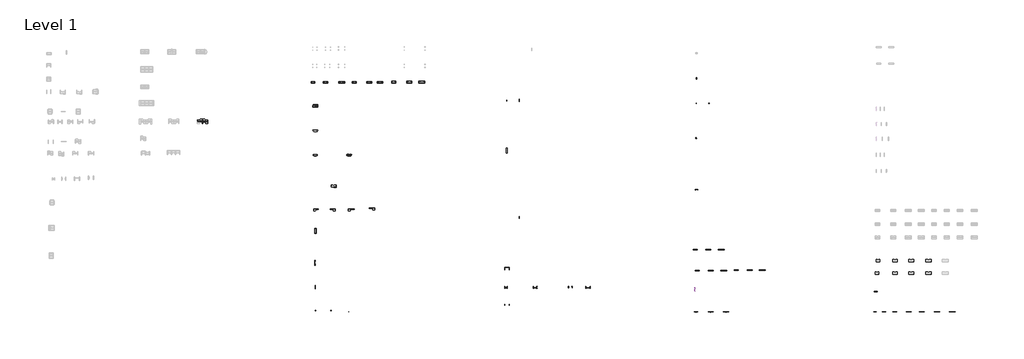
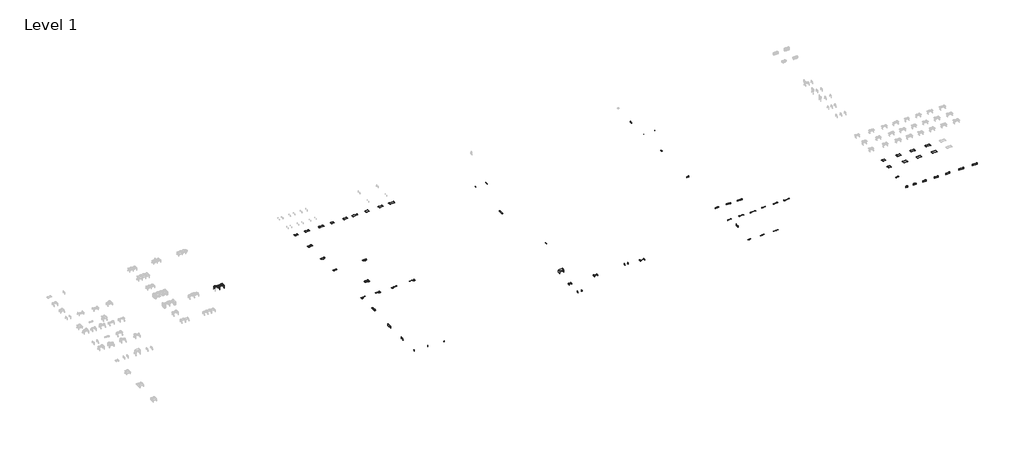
# One storey, part 4 of 6: 89 furniture elements.
"""IFC4 building model written with IfcOpenShell, lengths in millimetres."""

from ifc_helpers import new_model, si_unit, origin, place, context, project, spatial, transform, mapped, element, save
from components import furniture_8d4970fa, furniture_6679164a, furniture_3df5f018, furniture_0e55591c, furniture_2405483f, furniture_fbfb8057, furniture_b97b1277, furniture_8c991483, furniture_fe8123d2, furniture_07929c5c, furniture_a9377d5e, furniture_2f688e64, furniture_057ee53e, furniture_6a4a3042, furniture_5335a9a9, furniture_2a7f6338, furniture_a3421a4a, furniture_15095b07, furniture_2e0b67ed, furniture_1dee7e2f, furniture_bd7a3b76, furniture_5ffd5a01, furniture_51eb2225, furniture_1d392456, furniture_06153b70, furniture_30w_1343d662, furniture_36w_9987a5bf, furniture_42w_2b0d6055, furniture_48w_f59d3814, furniture_48w_90511896, furniture_48w_89c0e46b, furniture_48w_d01410e0, furniture_54w_c7aa8312, furniture_60w_907c8dee, furniture_60w_9ff7b1d1, furniture_60w_2125a2dd, furniture_60w_9ca0c22e, furniture_60w_cce648a8, furniture_60w_9fa3c8d5, furniture_60w_b1f3d5a1, furniture_60w_left_193ce283, furniture_60w_left_80dfc609, furniture_60w_right_423f7bdd, furniture_60w_right_6b6f8c7d, furniture_60w_right_3e926bd7, furniture_60w_right_09d68f9b, furniture_66w_8efaf1e2, furniture_72w_779c4fb6, furniture_72w_24902055, furniture_72w_58d5d5e4, furniture_72w_left_38a2987f, furniture_72w_right_2cdcb562, bracket_5da60547, bracket_8338e0bc, double_mini_hook_front_8bcf4326, double_mini_hook_front_c12a3f64, double_mini_hook_front_back_0d0c3ba5, double_mini_hook_front_back_d21041cb, full_2cae2f0a, full_half_8ba35e3a, full_half_125b1efd, lower_48w_d15a52aa, lower_60w_76b18c54, lower_72w_69a91847, mid_transaction_fcdc6f12, organizer_70f5f413, package_of_four_442cce5f, planter_e9aa8756, seat_e1c811f7, shroud_0d320042, side_storage_3572fcca, table_mount_8f96cead, transaction_6a745f56, upper_48w_1558e68d, upper_60w_f62813fc, upper_72w_3a9c6955

model = new_model("IFC4")

# Units and contexts
model_context = context("Model", 3, world=origin())
ifc_project = project(units=[si_unit("LENGTHUNIT", "METRE", prefix="MILLI")], contexts=[model_context])

# Site, building, storey
site = spatial("IfcSite", under=ifc_project)
building = spatial("IfcBuilding", under=site)
storey = spatial("IfcBuildingStorey", under=building, Name="Level 1", Elevation=0.0)

# Furniture
placement = place(None, origin())
furniture_shape = furniture_8d4970fa(model_context)
element("IfcFurniture", 1, ObjectType="Steelcase Turnstone - Bivi - Table - Table Top : 30D x 72W", at=placement, inside=storey, context=model_context, shape_type="MappedRepresentation", body=[
    mapped(furniture_shape, transform((805355.3766429, -2303.582575, 0.0), x_axis=(1.0, 0.0, 0.0), y_axis=(0.0, 1.0, 0.0), z_axis=(0.0, 0.0, 1.0))),
])
furniture_2_shape = furniture_6679164a(model_context)
element("IfcFurniture", 2, ObjectType="Steelcase Turnstone - Bivi - Table - Table Top : 30D x 48W", at=placement, inside=storey, context=model_context, shape_type="MappedRepresentation", body=[
    mapped(furniture_2_shape, transform((796841.7030429, -2303.582575, 0.0), x_axis=(1.0, 0.0, 0.0), y_axis=(0.0, 1.0, 0.0), z_axis=(0.0, 0.0, 1.0))),
])
furniture_3_shape = furniture_3df5f018(model_context)
element("IfcFurniture", 3, ObjectType="Steelcase Turnstone - Bivi - Table - Table Top : 30D x 60W", at=placement, inside=storey, context=model_context, shape_type="MappedRepresentation", body=[
    mapped(furniture_3_shape, transform((801596.1766429, -2303.582575, 0.0), x_axis=(1.0, 0.0, 0.0), y_axis=(0.0, 1.0, 0.0), z_axis=(0.0, 0.0, 1.0))),
])
furniture_4_shape = furniture_0e55591c(model_context)
element("IfcFurniture", 4, ObjectType="Steelcase Turnstone - Bivi - Table - Table Top : 24D x 48W", at=placement, inside=storey, context=model_context, shape_type="MappedRepresentation", body=[
    mapped(furniture_4_shape, transform((784903.7017783, -2455.855575, 0.0), x_axis=(1.0, 0.0, 0.0), y_axis=(0.0, 1.0, 0.0), z_axis=(0.0, 0.0, 1.0))),
])
furniture_5_shape = furniture_2405483f(model_context)
element("IfcFurniture", 5, ObjectType="Steelcase Turnstone - Bivi - Table - Table Top : 21D x 48W", at=placement, inside=storey, context=model_context, shape_type="MappedRepresentation", body=[
    mapped(furniture_5_shape, transform((772379.8266429, -2509.957575, 0.0), x_axis=(1.0, 0.0, 0.0), y_axis=(0.0, 1.0, 0.0), z_axis=(0.0, 0.0, 1.0))),
])
furniture_6_shape = furniture_fbfb8057(model_context)
element("IfcFurniture", 6, ObjectType="Steelcase Turnstone - Bivi - Table - Table Top : 24D x 60W", at=placement, inside=storey, context=model_context, shape_type="MappedRepresentation", body=[
    mapped(furniture_6_shape, transform((789374.1030429, -2455.855575, 0.0), x_axis=(1.0, 0.0, 0.0), y_axis=(0.0, 1.0, 0.0), z_axis=(0.0, 0.0, 1.0))),
])
furniture_7_shape = furniture_b97b1277(model_context)
element("IfcFurniture", 7, ObjectType="Steelcase Turnstone - Bivi - Table - Table Top : 21D x 60W", at=placement, inside=storey, context=model_context, shape_type="MappedRepresentation", body=[
    mapped(furniture_7_shape, transform((776189.8266429, -2509.957575, 0.0), x_axis=(1.0, 0.0, 0.0), y_axis=(0.0, 1.0, 0.0), z_axis=(0.0, 0.0, 1.0))),
])
furniture_8_shape = furniture_8c991483(model_context)
element("IfcFurniture", 8, ObjectType="Steelcase Turnstone - Bivi - Table - Table Top : 24D x 72W", at=placement, inside=storey, context=model_context, shape_type="MappedRepresentation", body=[
    mapped(furniture_8_shape, transform((792701.5030429, -2455.855575, 0.0), x_axis=(1.0, 0.0, 0.0), y_axis=(0.0, 1.0, 0.0), z_axis=(0.0, 0.0, 1.0))),
])
furniture_9_shape = furniture_fe8123d2(model_context)
element("IfcFurniture", 9, ObjectType="Steelcase Turnstone - Bivi - Table - Table Top : 21D x 72W", at=placement, inside=storey, context=model_context, shape_type="MappedRepresentation", body=[
    mapped(furniture_9_shape, transform((781047.6020429, -2509.957575, 0.0), x_axis=(1.0, 0.0, 0.0), y_axis=(0.0, 1.0, 0.0), z_axis=(0.0, 0.0, 1.0))),
])
furniture_10_shape = furniture_07929c5c(model_context)
element("IfcFurniture", 10, ObjectType="Steelcase Turnstone - Bivi - Table - Leg : 2D x 42 1/4W 28 1/2H", at=placement, inside=storey, context=model_context, shape_type="MappedRepresentation", body=[
    mapped(furniture_10_shape, transform((739715.0554075, -14462.9973333, 0.0), x_axis=(-1.0, 0.0, 0.0), y_axis=(0.0, -1.0, 0.0), z_axis=(0.0, 0.0, 1.0))),
])
furniture_11_shape = furniture_a9377d5e(model_context)
element("IfcFurniture", 11, ObjectType="Steelcase Turnstone - Bivi - Soft Cable Drop : 36W x 11H", at=placement, inside=storey, context=model_context, shape_type="MappedRepresentation", body=[
    mapped(furniture_11_shape, transform((943101.7031815, -65374.6467504, 0.0), x_axis=(1.0, 0.0, 0.0), y_axis=(0.0, 1.0, 0.0), z_axis=(0.0, 0.0, 1.0))),
])
furniture_12_shape = furniture_2f688e64(model_context)
element("IfcFurniture", 12, ObjectType="Steelcase Turnstone - Bivi - Height Adjustable Desk - C Base : 30D x 54.5W", at=placement, inside=storey, context=model_context, shape_type="MappedRepresentation", body=[
    mapped(furniture_12_shape, transform((949821.8817723, -59816.4482229, 0.0), x_axis=(1.0, 0.0, 0.0), y_axis=(0.0, 1.0, 0.0), z_axis=(0.0, 0.0, 1.0))),
])
furniture_13_shape = furniture_057ee53e(model_context)
element("IfcFurniture", 13, ObjectType="Steelcase Turnstone - Bivi - Height Adjustable Desk - C Base : 29D x 42.5W", at=placement, inside=storey, context=model_context, shape_type="MappedRepresentation", body=[
    mapped(furniture_13_shape, transform((944640.2817723, -56030.1503338, 0.0), x_axis=(1.0, 0.0, 0.0), y_axis=(0.0, 1.0, 0.0), z_axis=(0.0, 0.0, 1.0))),
])
furniture_14_shape = furniture_6a4a3042(model_context)
element("IfcFurniture", 14, ObjectType="Steelcase Turnstone - Bivi - Height Adjustable Desk - C Base : 29D x 60W", at=placement, inside=storey, context=model_context, shape_type="MappedRepresentation", body=[
    mapped(furniture_14_shape, transform((954616.1317723, -56030.1503338, 0.0), x_axis=(1.0, 0.0, 0.0), y_axis=(0.0, 1.0, 0.0), z_axis=(0.0, 0.0, 1.0))),
])
furniture_15_shape = furniture_5335a9a9(model_context)
element("IfcFurniture", 15, ObjectType="Steelcase Turnstone - Bivi - Height Adjustable Desk - C Base : 30D x 60W", at=placement, inside=storey, context=model_context, shape_type="MappedRepresentation", body=[
    mapped(furniture_15_shape, transform((954616.1317723, -59816.4482229, 0.0), x_axis=(1.0, 0.0, 0.0), y_axis=(0.0, 1.0, 0.0), z_axis=(0.0, 0.0, 1.0))),
])
furniture_16_shape = furniture_2a7f6338(model_context)
element("IfcFurniture", 16, ObjectType="Steelcase Turnstone - Bivi - Height Adjustable Desk - C Base : 29D x 66.5W", at=placement, inside=storey, context=model_context, shape_type="MappedRepresentation", body=[
    mapped(furniture_16_shape, transform((959880.2817723, -56030.1503338, 0.0), x_axis=(1.0, 0.0, 0.0), y_axis=(0.0, 1.0, 0.0), z_axis=(0.0, 0.0, 1.0))),
])
furniture_17_shape = furniture_a3421a4a(model_context)
element("IfcFurniture", 17, ObjectType="Steelcase Turnstone - Bivi - Height Adjustable Desk - C Base : 30D x 66.5W", at=placement, inside=storey, context=model_context, shape_type="MappedRepresentation", body=[
    mapped(furniture_17_shape, transform((959880.2817723, -59816.4482229, 0.0), x_axis=(1.0, 0.0, 0.0), y_axis=(0.0, 1.0, 0.0), z_axis=(0.0, 0.0, 1.0))),
])
furniture_18_shape = furniture_15095b07(model_context)
element("IfcFurniture", 18, ObjectType="Steelcase Turnstone - Bivi - Height Adjustable Desk - C Base : 30D x 42.5W", at=placement, inside=storey, context=model_context, shape_type="MappedRepresentation", body=[
    mapped(furniture_18_shape, transform((944322.7817723, -59816.4482229, 0.0), x_axis=(1.0, 0.0, 0.0), y_axis=(0.0, 1.0, 0.0), z_axis=(0.0, 0.0, 1.0))),
])
furniture_19_shape = furniture_2e0b67ed(model_context)
element("IfcFurniture", 19, ObjectType="Steelcase Turnstone - Bivi - Height Adjustable Desk - C Base : 29D x 54.5W", at=placement, inside=storey, context=model_context, shape_type="MappedRepresentation", body=[
    mapped(furniture_19_shape, transform((949821.8817723, -56030.1503338, 0.0), x_axis=(1.0, 0.0, 0.0), y_axis=(0.0, 1.0, 0.0), z_axis=(0.0, 0.0, 1.0))),
])
furniture_20_shape = furniture_1dee7e2f(model_context)
element("IfcFurniture", 20, ObjectType="Steelcase Turnstone - Bivi - Table - Back Pocket : 28 1/2D x 58 1/2W x 7 1/4H", at=placement, inside=storey, context=model_context, shape_type="MappedRepresentation", body=[
    mapped(furniture_20_shape, transform((773116.4266429, -9485.6635359, 0.0), x_axis=(1.0, 0.0, 0.0), y_axis=(0.0, 1.0, 0.0), z_axis=(0.0, 0.0, 1.0))),
])
furniture_21_shape = furniture_bd7a3b76(model_context)
element("IfcFurniture", 21, ObjectType="Steelcase Turnstone - Bivi - Table - Half Round : 27D x 60W x 8H", at=placement, inside=storey, context=model_context, shape_type="MappedRepresentation", body=[
    mapped(furniture_21_shape, transform((773097.3766429, -16423.038529, 0.0), x_axis=(1.0, 0.0, 0.0), y_axis=(0.0, 1.0, 0.0), z_axis=(0.0, 0.0, 1.0))),
])
furniture_22_shape = furniture_5ffd5a01(model_context)
element("IfcFurniture", 22, ObjectType="Steelcase Turnstone - Bivi - Table - Leg : 2D x 42 1/4W 28 1/2H", at=placement, inside=storey, context=model_context, shape_type="MappedRepresentation", body=[
    mapped(furniture_22_shape, transform((773794.9386101, -64656.3896622, 0.0), x_axis=(1.0, 0.0, 0.0), y_axis=(0.0, 1.0, 0.0), z_axis=(0.0, 0.0, 1.0))),
])
element("IfcFurniture", 23, ObjectType="Steelcase Turnstone - Bivi - Table - Leg : 2D x 42 1/4W 28 1/2H", at=placement, inside=storey, context=model_context, shape_type="MappedRepresentation", body=[
    mapped(furniture_22_shape, transform((741184.9086089, -14477.6722991, 0.0), x_axis=(1.0, 0.0, 0.0), y_axis=(0.0, 1.0, 0.0), z_axis=(0.0, 0.0, 1.0))),
])
furniture_23_shape = furniture_51eb2225(model_context)
element("IfcFurniture", 24, ObjectType="Steelcase Turnstone - Bivi - Accessories - Bottom Shelf : 8 1/2D x 18 1/2W x 17H", at=placement, inside=storey, context=model_context, shape_type="MappedRepresentation", body=[
    mapped(furniture_23_shape, transform((889134.0697483, -991.7848693, 0.0), x_axis=(1.0, 0.0, 0.0), y_axis=(0.0, 1.0, 0.0), z_axis=(0.0, 0.0, 1.0))),
])
furniture_24_shape = furniture_1d392456(model_context)
element("IfcFurniture", 25, ObjectType="Steelcase Turnstone - Bivi - Arch Accessories - Markerboard : 14W x 6 7/8H", at=placement, inside=storey, context=model_context, shape_type="MappedRepresentation", body=[
    mapped(furniture_24_shape, transform((831737.7529477, -7741.6552347, 0.0), x_axis=(1.0, 0.0, 0.0), y_axis=(0.0, 1.0, 0.0), z_axis=(0.0, 0.0, 1.0))),
])
furniture_25_shape = furniture_06153b70(model_context)
element("IfcFurniture", 26, ObjectType="Steelcase Turnstone - Bivi - Arch Accessories - Markerboard : 30W x 6H", at=placement, inside=storey, context=model_context, shape_type="MappedRepresentation", body=[
    mapped(furniture_25_shape, transform((835541.5800919, -7741.6552347, 0.0), x_axis=(1.0, 0.0, 0.0), y_axis=(0.0, 1.0, 0.0), z_axis=(0.0, 0.0, 1.0))),
])
furniture_30w_shape = furniture_30w_1343d662(model_context)
element("IfcFurniture", 27, ObjectType="Steelcase Turnstone - Bivi - Screen - Straight : 30W", at=placement, inside=storey, context=model_context, shape_type="MappedRepresentation", body=[
    mapped(furniture_30w_shape, transform((942949.3031815, -71506.3609867, 0.0), x_axis=(1.0, 0.0, 0.0), y_axis=(0.0, 1.0, 0.0), z_axis=(0.0, 0.0, 1.0))),
])
furniture_36w_shape = furniture_36w_9987a5bf(model_context)
element("IfcFurniture", 28, ObjectType="Steelcase Turnstone - Bivi - Seat - Rumble Seat - Freestanding Leg : 36W", at=placement, inside=storey, context=model_context, shape_type="MappedRepresentation", body=[
    mapped(furniture_36w_shape, transform((831468.1990741, -64351.9099381, 0.0), x_axis=(1.0, 0.0, 0.0), y_axis=(0.0, 1.0, 0.0), z_axis=(0.0, 0.0, 1.0))),
])
furniture_42w_shape = furniture_42w_2b0d6055(model_context)
element("IfcFurniture", 29, ObjectType="Steelcase Turnstone - Bivi - Screen - Straight : 42W", at=placement, inside=storey, context=model_context, shape_type="MappedRepresentation", body=[
    mapped(furniture_42w_shape, transform((945540.1031815, -71506.3609867, 0.0), x_axis=(1.0, 0.0, 0.0), y_axis=(0.0, 1.0, 0.0), z_axis=(0.0, 0.0, 1.0))),
])
furniture_48w_shape = furniture_48w_f59d3814(model_context)
element("IfcFurniture", 30, ObjectType="Steelcase Turnstone - Bivi - Accessories - High Sit Bracket with Modesty Panel : 48W", at=placement, inside=storey, context=model_context, shape_type="MappedRepresentation", body=[
    mapped(furniture_48w_shape, transform((888107.2919204, -52675.9612295, 0.0), x_axis=(1.0, 0.0, 0.0), y_axis=(0.0, 1.0, 0.0), z_axis=(0.0, 0.0, 1.0))),
])
furniture_48w_2_shape = furniture_48w_90511896(model_context)
element("IfcFurniture", 31, ObjectType="Steelcase Turnstone - Bivi - Accessories - Monitor Arm Table Mount : 48W", at=placement, inside=storey, context=model_context, shape_type="MappedRepresentation", body=[
    mapped(furniture_48w_2_shape, transform((888980.396485, -71455.9198126, 0.0), x_axis=(1.0, 0.0, 0.0), y_axis=(0.0, 1.0, 0.0), z_axis=(0.0, 0.0, 1.0))),
])
furniture_48w_3_shape = furniture_48w_89c0e46b(model_context)
element("IfcFurniture", 32, ObjectType="Steelcase Turnstone - Bivi - Screen - Straight : 48W", at=placement, inside=storey, context=model_context, shape_type="MappedRepresentation", body=[
    mapped(furniture_48w_3_shape, transform((948740.5031815, -71506.3609867, 0.0), x_axis=(1.0, 0.0, 0.0), y_axis=(0.0, 1.0, 0.0), z_axis=(0.0, 0.0, 1.0))),
])
furniture_48w_4_shape = furniture_48w_d01410e0(model_context)
element("IfcFurniture", 33, ObjectType="Steelcase Turnstone - Bivi - Seat - Rumble Seat - Freestanding Leg : 48W", at=placement, inside=storey, context=model_context, shape_type="MappedRepresentation", body=[
    mapped(furniture_48w_4_shape, transform((840302.9532911, -64351.9099381, 0.0), x_axis=(1.0, 0.0, 0.0), y_axis=(0.0, 1.0, 0.0), z_axis=(0.0, 0.0, 1.0))),
])
furniture_54w_shape = furniture_54w_c7aa8312(model_context)
element("IfcFurniture", 34, ObjectType="Steelcase Turnstone - Bivi - Screen - Straight : 54W", at=placement, inside=storey, context=model_context, shape_type="MappedRepresentation", body=[
    mapped(furniture_54w_shape, transform((952855.3031815, -71506.3609867, 0.0), x_axis=(1.0, 0.0, 0.0), y_axis=(0.0, 1.0, 0.0), z_axis=(0.0, 0.0, 1.0))),
])
furniture_60w_shape = furniture_60w_907c8dee(model_context)
element("IfcFurniture", 35, ObjectType="Steelcase Turnstone - Bivi - Accessories - End Panel : 60W", at=placement, inside=storey, context=model_context, shape_type="MappedRepresentation", body=[
    mapped(furniture_60w_shape, transform((773587.9014429, -56584.4370987, 0.0), x_axis=(1.0, 0.0, 0.0), y_axis=(0.0, 1.0, 0.0), z_axis=(0.0, 0.0, 1.0))),
])
furniture_60w_2_shape = furniture_60w_9ff7b1d1(model_context)
element("IfcFurniture", 36, ObjectType="Steelcase Turnstone - Bivi - Table - End Hanging Table Top : 60W", at=placement, inside=storey, context=model_context, shape_type="MappedRepresentation", body=[
    mapped(furniture_60w_2_shape, transform((774011.7766187, -47433.1608949, 0.0), x_axis=(1.0, 0.0, 0.0), y_axis=(0.0, 1.0, 0.0), z_axis=(0.0, 0.0, 1.0))),
])
furniture_60w_3_shape = furniture_60w_2125a2dd(model_context)
element("IfcFurniture", 37, ObjectType="Steelcase Turnstone - Bivi - Accessories - Monitor Arm Table Mount : 60W", at=placement, inside=storey, context=model_context, shape_type="MappedRepresentation", body=[
    mapped(furniture_60w_3_shape, transform((893435.0676956, -71455.9198126, 0.0), x_axis=(1.0, 0.0, 0.0), y_axis=(0.0, 1.0, 0.0), z_axis=(0.0, 0.0, 1.0))),
])
furniture_60w_4_shape = furniture_60w_9ca0c22e(model_context)
element("IfcFurniture", 38, ObjectType="Steelcase Turnstone - Bivi - Accessories - High Sit Bracket with Modesty Panel : 60W", at=placement, inside=storey, context=model_context, shape_type="MappedRepresentation", body=[
    mapped(furniture_60w_4_shape, transform((892040.7352646, -52675.9612295, 0.0), x_axis=(1.0, 0.0, 0.0), y_axis=(0.0, 1.0, 0.0), z_axis=(0.0, 0.0, 1.0))),
])
furniture_60w_5_shape = furniture_60w_cce648a8(model_context)
element("IfcFurniture", 39, ObjectType="Steelcase Turnstone - Bivi - Accessories - High Sit Bracket with Modesty Panel : 60W", at=placement, inside=storey, context=model_context, shape_type="MappedRepresentation", body=[
    mapped(furniture_60w_5_shape, transform((741187.0157862, -13851.2769492, 0.0), x_axis=(-1.0, 0.0, 0.0), y_axis=(0.0, -1.0, 0.0), z_axis=(0.0, 0.0, 1.0))),
])
furniture_60w_6_shape = furniture_60w_9fa3c8d5(model_context)
element("IfcFurniture", 40, ObjectType="Steelcase Turnstone - Bivi - Screen - Straight : 60W", at=placement, inside=storey, context=model_context, shape_type="MappedRepresentation", body=[
    mapped(furniture_60w_6_shape, transform((956665.3031815, -71506.3609867, 0.0), x_axis=(1.0, 0.0, 0.0), y_axis=(0.0, 1.0, 0.0), z_axis=(0.0, 0.0, 1.0))),
])
element("IfcFurniture", 41, ObjectType="Steelcase Turnstone - Bivi - Accessories - High Sit Bracket with Modesty Panel : 60W", at=placement, inside=storey, context=model_context, shape_type="MappedRepresentation", body=[
    mapped(furniture_60w_4_shape, transform((738190.6306316, -13851.2769492, 0.0), x_axis=(1.0, 0.0, 0.0), y_axis=(0.0, 1.0, 0.0), z_axis=(0.0, 0.0, 1.0))),
])
furniture_60w_7_shape = furniture_60w_b1f3d5a1(model_context)
element("IfcFurniture", 42, ObjectType="Steelcase Turnstone - Bivi - Seat - Rumble Seat - Freestanding Leg : 60W", at=placement, inside=storey, context=model_context, shape_type="MappedRepresentation", body=[
    mapped(furniture_60w_7_shape, transform((856304.4706911, -64351.9099381, 0.0), x_axis=(1.0, 0.0, 0.0), y_axis=(0.0, 1.0, 0.0), z_axis=(0.0, 0.0, 1.0))),
])
furniture_60w_left_shape = furniture_60w_left_193ce283(model_context)
element("IfcFurniture", 43, ObjectType="Steelcase Turnstone - Bivi - Table - Dual Top - Upper : 60W - Left", at=placement, inside=storey, context=model_context, shape_type="MappedRepresentation", body=[
    mapped(furniture_60w_left_shape, transform((773149.9706584, -41251.1611671, 0.0), x_axis=(1.0, 0.0, 0.0), y_axis=(0.0, 1.0, 0.0), z_axis=(0.0, 0.0, 1.0))),
])
furniture_60w_left_2_shape = furniture_60w_left_80dfc609(model_context)
element("IfcFurniture", 44, ObjectType="Steelcase Turnstone - Bivi - Table - Dual Top - Upper : 60W - Left", at=placement, inside=storey, context=model_context, shape_type="MappedRepresentation", body=[
    mapped(furniture_60w_left_2_shape, transform((738038.7790244, -13098.5001474, 0.0), x_axis=(1.0, 0.0, 0.0), y_axis=(0.0, 1.0, 0.0), z_axis=(0.0, 0.0, 1.0))),
])
furniture_60w_right_shape = furniture_60w_right_423f7bdd(model_context)
element("IfcFurniture", 45, ObjectType="Steelcase Turnstone - Bivi - Table - Dual Top - Lower : 60W - Right", at=placement, inside=storey, context=model_context, shape_type="MappedRepresentation", body=[
    mapped(furniture_60w_right_shape, transform((778485.4655405, -33986.7611671, 0.0), x_axis=(1.0, 0.0, 0.0), y_axis=(0.0, 1.0, 0.0), z_axis=(0.0, 0.0, 1.0))),
])
element("IfcFurniture", 46, ObjectType="Steelcase Turnstone - Bivi - Table - Dual Top - Lower : 60W - Right", at=placement, inside=storey, context=model_context, shape_type="MappedRepresentation", body=[
    mapped(furniture_60w_right_shape, transform((741344.4546493, -13103.9813032, 0.0), x_axis=(-1.0000000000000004, 0.0, 0.0), y_axis=(0.0, -1.0000000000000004, 0.0), z_axis=(0.0, 0.0, 1.0))),
])
furniture_60w_right_2_shape = furniture_60w_right_6b6f8c7d(model_context)
element("IfcFurniture", 47, ObjectType="Steelcase Turnstone - Bivi - Table - Dual Top - Upper : 60W - Right", at=placement, inside=storey, context=model_context, shape_type="MappedRepresentation", body=[
    mapped(furniture_60w_right_2_shape, transform((778179.1706584, -41251.1611671, 0.0), x_axis=(1.0, 0.0, 0.0), y_axis=(0.0, 1.0, 0.0), z_axis=(0.0, 0.0, 1.0))),
])
element("IfcFurniture", 48, ObjectType="Steelcase Turnstone - Bivi - Table - Dual Top - Upper : 60W - Right", at=placement, inside=storey, context=model_context, shape_type="MappedRepresentation", body=[
    mapped(furniture_60w_right_2_shape, transform((739564.4554244, -14769.019473, 0.0), x_axis=(1.0, 0.0, 0.0), y_axis=(0.0, 1.0, 0.0), z_axis=(0.0, 0.0, 1.0))),
])
furniture_60w_right_3_shape = furniture_60w_right_3e926bd7(model_context)
element("IfcFurniture", 49, ObjectType="Steelcase Turnstone - Bivi - Table - Dual Top - Lower : 60W - Right", at=placement, inside=storey, context=model_context, shape_type="MappedRepresentation", body=[
    mapped(furniture_60w_right_3_shape, transform((738039.5417686, -13103.9813032, 0.0), x_axis=(1.0000000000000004, 0.0, 0.0), y_axis=(0.0, 1.0000000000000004, 0.0), z_axis=(0.0, 0.0, 1.0))),
])
furniture_60w_right_4_shape = furniture_60w_right_09d68f9b(model_context)
element("IfcFurniture", 50, ObjectType="Steelcase Turnstone - Bivi - Table - Dual Top - Upper : 60W - Right", at=placement, inside=storey, context=model_context, shape_type="MappedRepresentation", body=[
    mapped(furniture_60w_right_4_shape, transform((739564.4554244, -13098.5001474, 0.0), x_axis=(1.0, 0.0, 0.0), y_axis=(0.0, 1.0, 0.0), z_axis=(0.0, 0.0, 1.0))),
])
furniture_66w_shape = furniture_66w_8efaf1e2(model_context)
element("IfcFurniture", 51, ObjectType="Steelcase Turnstone - Bivi - Screen - Straight : 66W", at=placement, inside=storey, context=model_context, shape_type="MappedRepresentation", body=[
    mapped(furniture_66w_shape, transform((961237.3031815, -71506.3609867, 0.0), x_axis=(1.0, 0.0, 0.0), y_axis=(0.0, 1.0, 0.0), z_axis=(0.0, 0.0, 1.0))),
])
furniture_72w_shape = furniture_72w_779c4fb6(model_context)
element("IfcFurniture", 52, ObjectType="Steelcase Turnstone - Bivi - Accessories - Monitor Arm Table Mount : 72W", at=placement, inside=storey, context=model_context, shape_type="MappedRepresentation", body=[
    mapped(furniture_72w_shape, transform((898124.396485, -71455.9198126, 0.0), x_axis=(1.0, 0.0, 0.0), y_axis=(0.0, 1.0, 0.0), z_axis=(0.0, 0.0, 1.0))),
])
furniture_72w_2_shape = furniture_72w_24902055(model_context)
element("IfcFurniture", 53, ObjectType="Steelcase Turnstone - Bivi - Accessories - High Sit Bracket with Modesty Panel : 72W", at=placement, inside=storey, context=model_context, shape_type="MappedRepresentation", body=[
    mapped(furniture_72w_2_shape, transform((895974.1786087, -52675.9612295, 0.0), x_axis=(1.0, 0.0, 0.0), y_axis=(0.0, 1.0, 0.0), z_axis=(0.0, 0.0, 1.0))),
])
furniture_72w_3_shape = furniture_72w_58d5d5e4(model_context)
element("IfcFurniture", 54, ObjectType="Steelcase Turnstone - Bivi - Screen - Straight : 72W", at=placement, inside=storey, context=model_context, shape_type="MappedRepresentation", body=[
    mapped(furniture_72w_3_shape, transform((965809.3031815, -71506.3609867, 0.0), x_axis=(1.0, 0.0, 0.0), y_axis=(0.0, 1.0, 0.0), z_axis=(0.0, 0.0, 1.0))),
])
furniture_72w_left_shape = furniture_72w_left_38a2987f(model_context)
element("IfcFurniture", 55, ObjectType="Steelcase Turnstone - Bivi - Table - Dual Top - Upper : 72W - Left", at=placement, inside=storey, context=model_context, shape_type="MappedRepresentation", body=[
    mapped(furniture_72w_left_shape, transform((783665.5706584, -41251.1611671, 0.0), x_axis=(1.0, 0.0, 0.0), y_axis=(0.0, 1.0, 0.0), z_axis=(0.0, 0.0, 1.0))),
])
furniture_72w_right_shape = furniture_72w_right_2cdcb562(model_context)
element("IfcFurniture", 56, ObjectType="Steelcase Turnstone - Bivi - Table - Dual Top - Upper : 72W - Right", at=placement, inside=storey, context=model_context, shape_type="MappedRepresentation", body=[
    mapped(furniture_72w_right_shape, transform((789946.511113, -40988.6605431, 0.0), x_axis=(1.0, 0.0, 0.0), y_axis=(0.0, 1.0, 0.0), z_axis=(0.0, 0.0, 1.0))),
])
bracket_shape = bracket_5da60547(model_context)
element("IfcFurniture", 57, ObjectType="Steelcase Turnstone - Bivi - Seat - Rumble Seat - Table Frame Attachment Bracket : Bracket", at=placement, inside=storey, context=model_context, shape_type="MappedRepresentation", body=[
    mapped(bracket_shape, transform((831032.460375, -69489.0882058, 0.2767651), x_axis=(1.0, 0.0, 0.0), y_axis=(0.0, 1.0, 0.0), z_axis=(0.0, 0.0, 1.0))),
])
bracket_2_shape = bracket_8338e0bc(model_context)
element("IfcFurniture", 58, ObjectType="Steelcase Turnstone - Bivi - Seat - Rumble Seat - Table Frame Attachment Bracket : Bracket", at=placement, inside=storey, context=model_context, shape_type="MappedRepresentation", body=[
    mapped(bracket_2_shape, transform((850382.052592, -64078.8882058, 0.2767651), x_axis=(1.0, 0.0, 0.0), y_axis=(0.0, 1.0, 0.0), z_axis=(0.0, 0.0, 1.0))),
])
double_mini_hook_front_shape = double_mini_hook_front_8bcf4326(model_context)
element("IfcFurniture", 59, ObjectType="Steelcase Turnstone - Bivi - Accessories - Mini Hook : Double Mini Hook - Front", at=placement, inside=storey, context=model_context, shape_type="MappedRepresentation", body=[
    mapped(double_mini_hook_front_shape, transform((738190.6306316, -13851.2769492, 0.0), x_axis=(1.0, 0.0, 0.0), y_axis=(0.0, 1.0, 0.0), z_axis=(0.0, 0.0, 1.0))),
])
double_mini_hook_front_2_shape = double_mini_hook_front_c12a3f64(model_context)
element("IfcFurniture", 60, ObjectType="Steelcase Turnstone - Bivi - Accessories - Mini Hook : Double Mini Hook - Front", at=placement, inside=storey, context=model_context, shape_type="MappedRepresentation", body=[
    mapped(double_mini_hook_front_2_shape, transform((741187.0157862, -13851.2769492, 0.0), x_axis=(-1.0, 0.0, 0.0), y_axis=(0.0, -1.0, 0.0), z_axis=(0.0, 0.0, 1.0))),
])
double_mini_hook_front_back_shape = double_mini_hook_front_back_0d0c3ba5(model_context)
double_mini_hook_front_back_2_shape = double_mini_hook_front_back_d21041cb(model_context)
element("IfcFurniture", 61, ObjectType="Steelcase Turnstone - Bivi - Accessories - Mini Hook : Double Mini Hook - Front/Back", at=placement, inside=storey, context=model_context, shape_type="MappedRepresentation", body=[
    mapped(double_mini_hook_front_back_shape, transform((888107.2919204, -52675.9612295, 0.0), x_axis=(1.0, 0.0, 0.0), y_axis=(0.0, 1.0, 0.0), z_axis=(0.0, 0.0, 1.0))),
    mapped(double_mini_hook_front_back_2_shape, transform((888107.2919204, -52675.9612295, 0.0), x_axis=(1.0, 0.0, 0.0), y_axis=(0.0, 1.0, 0.0), z_axis=(0.0, 0.0, 1.0))),
])
element("IfcFurniture", 62, ObjectType="Steelcase Turnstone - Bivi - Accessories - Mini Hook : Double Mini Hook - Front/Back", at=placement, inside=storey, context=model_context, shape_type="MappedRepresentation", body=[
    mapped(double_mini_hook_front_back_shape, transform((892040.7352646, -52675.9612295, 0.0), x_axis=(1.0, 0.0, 0.0), y_axis=(0.0, 1.0, 0.0), z_axis=(0.0, 0.0, 1.0))),
    mapped(double_mini_hook_front_back_2_shape, transform((892040.7352646, -52675.9612295, 0.0), x_axis=(1.0, 0.0, 0.0), y_axis=(0.0, 1.0, 0.0), z_axis=(0.0, 0.0, 1.0))),
])
element("IfcFurniture", 63, ObjectType="Steelcase Turnstone - Bivi - Accessories - Mini Hook : Double Mini Hook - Front/Back", at=placement, inside=storey, context=model_context, shape_type="MappedRepresentation", body=[
    mapped(double_mini_hook_front_back_shape, transform((895974.1786087, -52675.9612295, 0.0), x_axis=(1.0, 0.0, 0.0), y_axis=(0.0, 1.0, 0.0), z_axis=(0.0, 0.0, 1.0))),
    mapped(double_mini_hook_front_back_2_shape, transform((895974.1786087, -52675.9612295, 0.0), x_axis=(1.0, 0.0, 0.0), y_axis=(0.0, 1.0, 0.0), z_axis=(0.0, 0.0, 1.0))),
])
full_shape = full_2cae2f0a(model_context)
element("IfcFurniture", 64, ObjectType="Steelcase Turnstone - Bivi - Table - Leg Cover : Full", at=placement, inside=storey, context=model_context, shape_type="MappedRepresentation", body=[
    mapped(full_shape, transform((773844.0622101, -71271.9958772, 0.0), x_axis=(1.0, 0.0, 0.0), y_axis=(0.0, 1.0, 0.0), z_axis=(0.0, 0.0, 1.0))),
])
full_half_shape = full_half_8ba35e3a(model_context)
element("IfcFurniture", 65, ObjectType="Steelcase Turnstone - Bivi - Table - Leg Cover : Full/Half", at=placement, inside=storey, context=model_context, shape_type="MappedRepresentation", body=[
    mapped(full_half_shape, transform((773794.9386101, -64656.3896622, 0.0), x_axis=(1.0, 0.0, 0.0), y_axis=(0.0, 1.0, 0.0), z_axis=(0.0, 0.0, 1.0))),
])
element("IfcFurniture", 66, ObjectType="Steelcase Turnstone - Bivi - Table - Leg Cover : Full/Half", at=placement, inside=storey, context=model_context, shape_type="MappedRepresentation", body=[
    mapped(full_half_shape, transform((739715.0554075, -13389.7234345, 0.0), x_axis=(-1.0, 0.0, 0.0), y_axis=(0.0, -1.0, 0.0), z_axis=(0.0, 0.0, 1.0))),
])
element("IfcFurniture", 67, ObjectType="Steelcase Turnstone - Bivi - Table - Leg Cover : Full/Half", at=placement, inside=storey, context=model_context, shape_type="MappedRepresentation", body=[
    mapped(full_half_shape, transform((741184.9086089, -14477.6722991, 0.0), x_axis=(1.0, 0.0, 0.0), y_axis=(0.0, 1.0, 0.0), z_axis=(0.0, 0.0, 1.0))),
])
full_half_2_shape = full_half_125b1efd(model_context)
element("IfcFurniture", 68, ObjectType="Steelcase Turnstone - Bivi - Table - Leg Cover : Full/Half", at=placement, inside=storey, context=model_context, shape_type="MappedRepresentation", body=[
    mapped(full_half_2_shape, transform((773794.9386101, -63583.1157633, 0.0), x_axis=(1.0, 0.0, 0.0), y_axis=(0.0, 1.0, 0.0), z_axis=(0.0, 0.0, 1.0))),
])
element("IfcFurniture", 69, ObjectType="Steelcase Turnstone - Bivi - Table - Leg Cover : Full/Half", at=placement, inside=storey, context=model_context, shape_type="MappedRepresentation", body=[
    mapped(full_half_2_shape, transform((738141.9378089, -13404.3984002, 0.0), x_axis=(1.0, 0.0, 0.0), y_axis=(0.0, 1.0, 0.0), z_axis=(0.0, 0.0, 1.0))),
])
element("IfcFurniture", 70, ObjectType="Steelcase Turnstone - Bivi - Table - Leg Cover : Full/Half", at=placement, inside=storey, context=model_context, shape_type="MappedRepresentation", body=[
    mapped(full_half_2_shape, transform((739715.0554075, -14462.9973333, 0.0), x_axis=(-1.0, 0.0, 0.0), y_axis=(0.0, -1.0, 0.0), z_axis=(0.0, 0.0, 1.0))),
])
element("IfcFurniture", 71, ObjectType="Steelcase Turnstone - Bivi - Table - Leg Cover : Full/Half", at=placement, inside=storey, context=model_context, shape_type="MappedRepresentation", body=[
    mapped(full_half_2_shape, transform((741184.9086089, -13404.3984002, 0.0), x_axis=(1.0, 0.0, 0.0), y_axis=(0.0, 1.0, 0.0), z_axis=(0.0, 0.0, 1.0))),
])
element("IfcFurniture", 72, ObjectType="Steelcase Turnstone - Bivi - Table - Leg Cover : Full/Half", at=placement, inside=storey, context=model_context, shape_type="MappedRepresentation", body=[
    mapped(full_shape, transform((778568.4622101, -71271.9958772, 0.0), x_axis=(1.0, 0.0, 0.0), y_axis=(0.0, 1.0, 0.0), z_axis=(0.0, 0.0, 1.0))),
])
element("IfcFurniture", 73, ObjectType="Steelcase Turnstone - Bivi - Table - Leg Cover : Half", at=placement, inside=storey, context=model_context, shape_type="MappedRepresentation", body=[
    mapped(full_half_shape, transform((783902.4622101, -71729.1958772, 0.0), x_axis=(1.0, 0.0, 0.0), y_axis=(0.0, 1.0, 0.0), z_axis=(0.0, 0.0, 1.0))),
])
lower_48w_shape = lower_48w_d15a52aa(model_context)
element("IfcFurniture", 74, ObjectType="Steelcase Turnstone - Bivi - Accessories - Footshelf : Lower - 48W", at=placement, inside=storey, context=model_context, shape_type="MappedRepresentation", body=[
    mapped(lower_48w_shape, transform((888845.6699204, -58702.0440906, 0.0), x_axis=(1.0, 0.0, 0.0), y_axis=(0.0, 1.0, 0.0), z_axis=(0.0, 0.0, 1.0))),
])
lower_60w_shape = lower_60w_76b18c54(model_context)
element("IfcFurniture", 75, ObjectType="Steelcase Turnstone - Bivi - Accessories - Footshelf : Lower - 60W", at=placement, inside=storey, context=model_context, shape_type="MappedRepresentation", body=[
    mapped(lower_60w_shape, transform((892779.1132646, -58702.0440906, 0.0), x_axis=(1.0, 0.0, 0.0), y_axis=(0.0, 1.0, 0.0), z_axis=(0.0, 0.0, 1.0))),
])
lower_72w_shape = lower_72w_69a91847(model_context)
element("IfcFurniture", 76, ObjectType="Steelcase Turnstone - Bivi - Accessories - Footshelf : Lower - 72W", at=placement, inside=storey, context=model_context, shape_type="MappedRepresentation", body=[
    mapped(lower_72w_shape, transform((896629.9253022, -58702.0440906, 0.0), x_axis=(1.0, 0.0, 0.0), y_axis=(0.0, 1.0, 0.0), z_axis=(0.0, 0.0, 1.0))),
])
mid_transaction_shape = mid_transaction_fcdc6f12(model_context)
element("IfcFurniture", 77, ObjectType="Steelcase Turnstone - Bivi - Table - Transaction : Mid Transaction", at=placement, inside=storey, context=model_context, shape_type="MappedRepresentation", body=[
    mapped(mid_transaction_shape, transform((773072.8148429, -23850.0204021, 0.0), x_axis=(1.0, 0.0, 0.0), y_axis=(0.0, 1.0, 0.0), z_axis=(0.0, 0.0, 1.0))),
])
organizer_shape = organizer_70f5f413(model_context)
element("IfcFurniture", 78, ObjectType="Steelcase Turnstone - Bivi - Accessories - Organizer : Organizer", at=placement, inside=storey, context=model_context, shape_type="MappedRepresentation", body=[
    mapped(organizer_shape, transform((889057.4610826, -19174.9361033, 0.0), x_axis=(1.0, 0.0, 0.0), y_axis=(0.0, 1.0, 0.0), z_axis=(0.0, 0.0, 1.0))),
])
package_of_four_shape = package_of_four_442cce5f(model_context)
element("IfcFurniture", 79, ObjectType="Steelcase Turnstone - Bivi - Accessories - Hook : Package Of Four", at=placement, inside=storey, context=model_context, shape_type="MappedRepresentation", body=[
    mapped(package_of_four_shape, transform((893023.4421811, -8403.8858647, 0.0), x_axis=(1.0, 0.0, 0.0), y_axis=(0.0, 1.0, 0.0), z_axis=(0.0, 0.0, 1.0))),
])
element("IfcFurniture", 80, ObjectType="Steelcase Turnstone - Bivi - Accessories - Hook : Package Of Two", at=placement, inside=storey, context=model_context, shape_type="MappedRepresentation", body=[
    mapped(package_of_four_shape, transform((889219.615037, -8403.8858647, 0.0), x_axis=(1.0, 0.0, 0.0), y_axis=(0.0, 1.0, 0.0), z_axis=(0.0, 0.0, 1.0))),
])
planter_shape = planter_e9aa8756(model_context)
element("IfcFurniture", 81, ObjectType="Steelcase Turnstone - Bivi - Arch Accessories - Holder and Planter : Planter", at=placement, inside=storey, context=model_context, shape_type="MappedRepresentation", body=[
    mapped(planter_shape, transform((835593.6183495, -42951.4029344, 0.0), x_axis=(1.0, 0.0, 0.0), y_axis=(0.0, 1.0, 0.0), z_axis=(0.0, 0.0, 1.0))),
])
seat_shape = seat_e1c811f7(model_context)
element("IfcFurniture", 82, ObjectType="Steelcase Turnstone - Bivi - Seat - Hoodie : Seat", at=placement, inside=storey, context=model_context, shape_type="MappedRepresentation", body=[
    mapped(seat_shape, transform((828843.3316787, -58303.6445882, 0.0), x_axis=(1.0, 0.0, 0.0), y_axis=(0.0, 1.0, 0.0), z_axis=(0.0, 0.0, 1.0))),
])
shroud_shape = shroud_0d320042(model_context)
element("IfcFurniture", 83, ObjectType="Steelcase Turnstone - Bivi - Accessories - Media Support System - Shroud : Shroud", at=placement, inside=storey, context=model_context, shape_type="MappedRepresentation", body=[
    mapped(shroud_shape, transform((888783.801054, -64999.7848693, 0.0), x_axis=(1.0, 0.0, 0.0), y_axis=(0.0, 1.0, 0.0), z_axis=(0.0, 0.0, 1.0))),
])
side_storage_shape = side_storage_3572fcca(model_context)
element("IfcFurniture", 84, ObjectType="Steelcase Turnstone - Bivi - Arch Accessories - Side Storage : Side Storage", at=placement, inside=storey, context=model_context, shape_type="MappedRepresentation", body=[
    mapped(side_storage_shape, transform((830949.0829477, -22924.5687301, 0.0), x_axis=(1.0, 0.0, 0.0), y_axis=(0.0, 1.0, 0.0), z_axis=(0.0, 0.0, 1.0))),
])
table_mount_shape = table_mount_8f96cead(model_context)
element("IfcFurniture", 85, ObjectType="Steelcase Turnstone - Bivi - Accessories - Screen - Metal : Table Mount", at=placement, inside=storey, context=model_context, shape_type="MappedRepresentation", body=[
    mapped(table_mount_shape, transform((888847.8289204, -34775.2440906, 0.0), x_axis=(1.0, 0.0, 0.0), y_axis=(0.0, 1.0, 0.0), z_axis=(0.0, 0.0, 1.0))),
])
transaction_shape = transaction_6a745f56(model_context)
element("IfcFurniture", 86, ObjectType="Steelcase Turnstone - Bivi - Table - Transaction : Transaction", at=placement, inside=storey, context=model_context, shape_type="MappedRepresentation", body=[
    mapped(transaction_shape, transform((783308.1766429, -23850.0204021, 0.0), x_axis=(1.0, 0.0, 0.0), y_axis=(0.0, 1.0, 0.0), z_axis=(0.0, 0.0, 1.0))),
])
upper_48w_shape = upper_48w_1558e68d(model_context)
element("IfcFurniture", 87, ObjectType="Steelcase Turnstone - Bivi - Accessories - Footshelf : Upper - 48W", at=placement, inside=storey, context=model_context, shape_type="MappedRepresentation", body=[
    mapped(upper_48w_shape, transform((900682.9562602, -58702.0440906, 0.0), x_axis=(1.0, 0.0, 0.0), y_axis=(0.0, 1.0, 0.0), z_axis=(0.0, 0.0, 1.0))),
])
upper_60w_shape = upper_60w_f62813fc(model_context)
element("IfcFurniture", 88, ObjectType="Steelcase Turnstone - Bivi - Accessories - Footshelf : Upper - 60W", at=placement, inside=storey, context=model_context, shape_type="MappedRepresentation", body=[
    mapped(upper_60w_shape, transform((904616.3996043, -58702.0440906, 0.0), x_axis=(1.0, 0.0, 0.0), y_axis=(0.0, 1.0, 0.0), z_axis=(0.0, 0.0, 1.0))),
])
upper_72w_shape = upper_72w_3a9c6955(model_context)
element("IfcFurniture", 89, ObjectType="Steelcase Turnstone - Bivi - Accessories - Footshelf : Upper - 72W", at=placement, inside=storey, context=model_context, shape_type="MappedRepresentation", body=[
    mapped(upper_72w_shape, transform((908288.842054, -58702.0440906, 0.0), x_axis=(1.0, 0.0, 0.0), y_axis=(0.0, 1.0, 0.0), z_axis=(0.0, 0.0, 1.0))),
])

save(model, "model.ifc")
